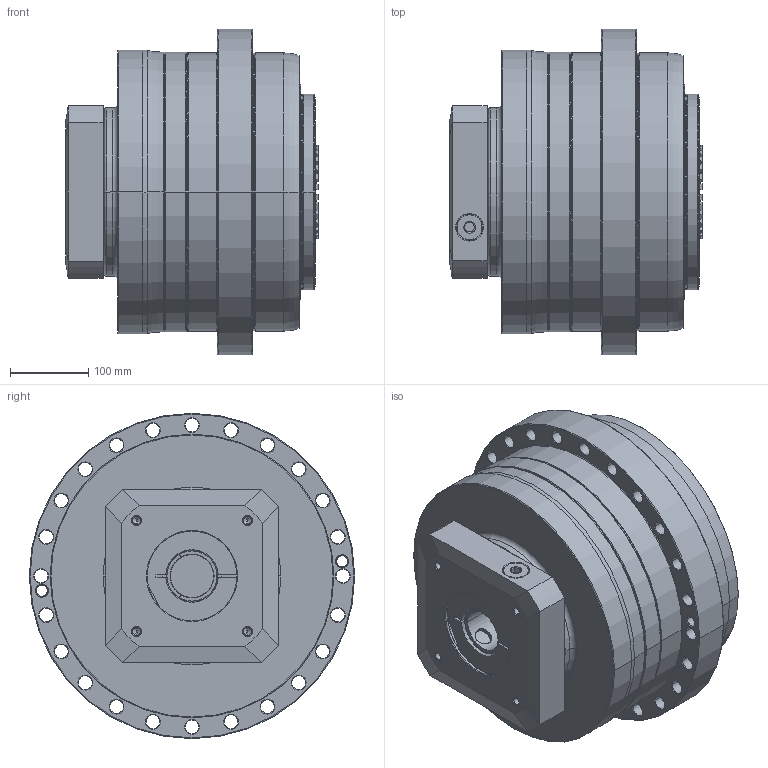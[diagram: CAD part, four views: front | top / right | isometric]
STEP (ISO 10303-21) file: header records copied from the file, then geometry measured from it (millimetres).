
FILE_DESCRIPTION((''),'2;1');
FILE_NAME('APC355_1ST_55-P0409C50101_ASM','2020-12-23T',('d01226'),(''),'PRO/ENGINEER BY PARAMETRIC TECHNOLOGY CORPORATION, 2015240','PRO/ENGINEER BY PARAMETRIC TECHNOLOGY CORPORATION, 2015240','');
FILE_SCHEMA(('CONFIG_CONTROL_DESIGN'));
Length unit declared in the file: millimetre
Products named in the file (9): P0276101003; P03571G0103; P1338110101; P0503C00016; P0942102001; P1222100001; P0409C50101; 21711426021; APC355_1ST_55-P0409C50101_ASM
Assembly tree (8 placements, depth 2):
  APC355_1ST_55-P0409C50101_ASM
    P0276101003
    P03571G0103
    P1338110101
    P0503C00016
    P0942102001
    P1222100001
    P0409C50101
    21711426021
Bounding box: 322.6 x 415 x 415 mm (x, y, z)
Volume: 31896472.3 mm3; surface area: 1320870.3 mm2
Topology: 9 solids, 19 shells, 660 faces, 1627 edges, 1005 vertices
Faces by surface type: cone 228, cylinder 164, plane 132, torus 124, bspline 12
Entity records: 25792 total; most frequent: CARTESIAN_POINT 9809, DIRECTION 3537, ORIENTED_EDGE 3194, EDGE_CURVE 1617, AXIS2_PLACEMENT_3D 1568, VERTEX_POINT 1005, CIRCLE 893, EDGE_LOOP 754
